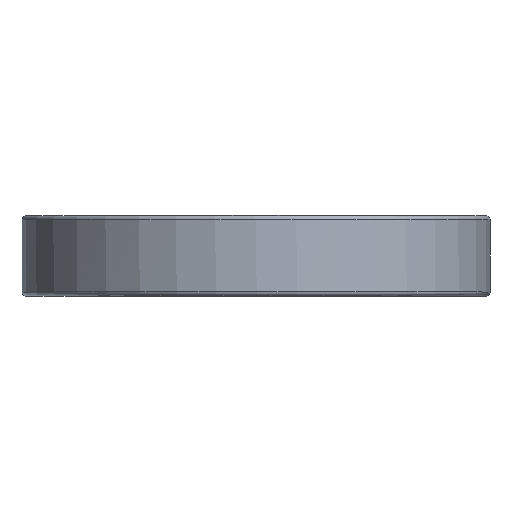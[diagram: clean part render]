
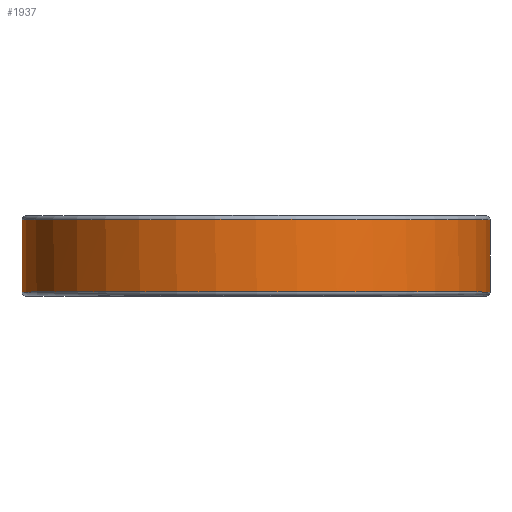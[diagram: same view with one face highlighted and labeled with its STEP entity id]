
A CAD part, top view. The second image highlights one B-rep face of the part: STEP entity #1937.
In plain terms, the highlighted cylindrical face has radius 35 mm (diameter 70 mm), a partial arc.
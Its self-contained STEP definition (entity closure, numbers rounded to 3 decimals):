
#1401=EDGE_CURVE('',#1469,#2233,#3254,.T.);
#1405=EDGE_CURVE('',#2233,#2065,#3258,.T.);
#1469=VERTEX_POINT('',#3327);
#1775=VERTEX_POINT('',#3674);
#1779=EDGE_CURVE('',#2065,#1775,#3678,.T.);
#1937=ADVANCED_FACE('',(#3869),#3870,.T.);
#2065=VERTEX_POINT('',#4013);
#2157=EDGE_CURVE('',#2545,#2543,#4117,.T.);
#2233=VERTEX_POINT('',#4201);
#2543=VERTEX_POINT('',#4542);
#2545=VERTEX_POINT('',#4544);
#2591=EDGE_CURVE('',#1469,#2543,#4599,.T.);
#2661=EDGE_CURVE('',#1775,#2545,#4678,.T.);
#3254=CIRCLE('',#5424,35.0);
#3258=CIRCLE('',#5429,35.0);
#3327=CARTESIAN_POINT('',(35.0,0.6,0.0));
#3674=CARTESIAN_POINT('',(-35.0,11.4,0.0));
#3678=LINE('',#5971,#5972);
#3869=FACE_OUTER_BOUND('',#6210,.T.);
#3870=CYLINDRICAL_SURFACE('',#6211,35.0);
#4013=CARTESIAN_POINT('',(-35.0,0.6,0.0));
#4117=CIRCLE('',#6529,35.0);
#4201=CARTESIAN_POINT('',(-34.999,0.6,0.218));
#4542=CARTESIAN_POINT('',(35.0,11.4,0.0));
#4544=CARTESIAN_POINT('',(35.,11.4,0.153));
#4599=LINE('',#7165,#7166);
#4678=CIRCLE('',#7261,35.0);
#5424=AXIS2_PLACEMENT_3D('',#7979,#7980,#7981);
#5429=AXIS2_PLACEMENT_3D('',#7982,#7983,#7984);
#5971=CARTESIAN_POINT('',(-35.0,0.6,0.));
#5972=VECTOR('',#8554,10.8);
#6210=EDGE_LOOP('',(#8853,#8854,#8855,#8856,#8857,#8858));
#6211=AXIS2_PLACEMENT_3D('',#8859,#8860,#8861);
#6529=AXIS2_PLACEMENT_3D('',#9189,#9190,#9191);
#7165=CARTESIAN_POINT('',(35.0,0.6,0.));
#7166=VECTOR('',#9783,10.8);
#7261=AXIS2_PLACEMENT_3D('',#9881,#9882,#9883);
#7979=CARTESIAN_POINT('',(0.0,0.6,0.0));
#7980=DIRECTION('',(0.0,-1.0,0.0));
#7981=DIRECTION('',(1.0,0.0,0.0));
#7982=CARTESIAN_POINT('',(0.0,0.6,0.0));
#7983=DIRECTION('',(0.0,-1.0,0.0));
#7984=DIRECTION('',(1.0,0.0,0.0));
#8554=DIRECTION('',(0.0,1.0,0.));
#8853=ORIENTED_EDGE('',*,*,#1779,.F.);
#8854=ORIENTED_EDGE('',*,*,#1405,.F.);
#8855=ORIENTED_EDGE('',*,*,#1401,.F.);
#8856=ORIENTED_EDGE('',*,*,#2591,.T.);
#8857=ORIENTED_EDGE('',*,*,#2157,.F.);
#8858=ORIENTED_EDGE('',*,*,#2661,.F.);
#8859=CARTESIAN_POINT('',(0.0,0.0,0.0));
#8860=DIRECTION('',(-0.0,1.0,-0.0));
#8861=DIRECTION('',(1.0,0.0,0.0));
#9189=CARTESIAN_POINT('',(0.0,11.4,0.0));
#9190=DIRECTION('',(0.0,1.0,0.0));
#9191=DIRECTION('',(-1.0,0.0,0.0));
#9783=DIRECTION('',(0.0,1.0,0.));
#9881=CARTESIAN_POINT('',(0.0,11.4,0.0));
#9882=DIRECTION('',(0.0,1.0,0.0));
#9883=DIRECTION('',(-1.0,0.0,0.0));
